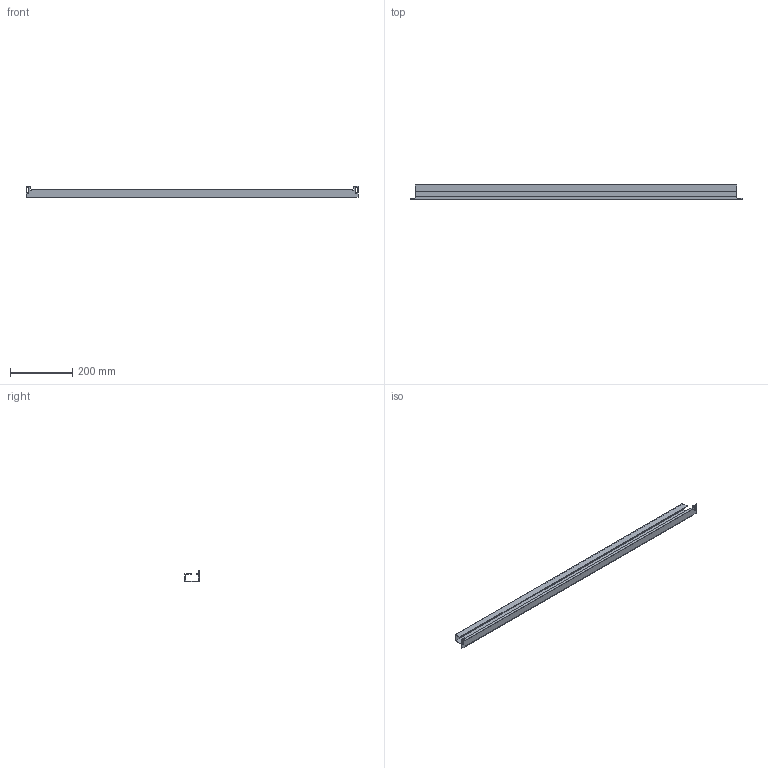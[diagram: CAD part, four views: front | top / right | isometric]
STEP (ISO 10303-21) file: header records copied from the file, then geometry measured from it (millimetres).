
FILE_DESCRIPTION( ( 'STEP AP214' ), '1' );
FILE_NAME( 'p:/temp/worker_124/temp/exporttempdir_4784_523_3pHIY/format_0/CABP1200(0).stp', '2021-03-15T14:11:16', ( 'License CC BY-ND 4.0' ), ( 'CADENAS' ), ' ', 'PARTsolutions', ' ' );
FILE_SCHEMA( ( 'AUTOMOTIVE_DESIGN { 1 0 10303 214 1 1 1 1 }' ) );
Length unit declared in the file: millimetre
Products named in the file (1): _CABP1200(0)
Bounding box: 1063.5 x 45 x 36.25 mm (x, y, z)
Volume: 211412.5 mm3; surface area: 245986.7 mm2
Topology: 1 solids, 1 shells, 34 faces, 96 edges, 64 vertices
Faces by surface type: plane 30, cylinder 4
Entity records: 1384 total; most frequent: CARTESIAN_POINT 195, ORIENTED_EDGE 192, DIRECTION 174, EDGE_CURVE 96, LINE 88, VECTOR 88, VERTEX_POINT 64, AXIS2_PLACEMENT_3D 43
